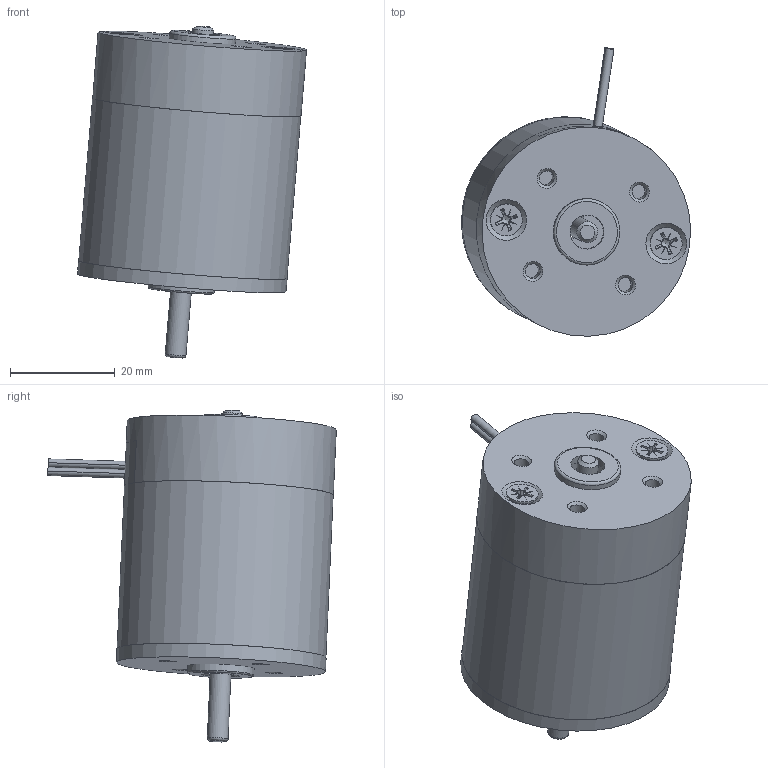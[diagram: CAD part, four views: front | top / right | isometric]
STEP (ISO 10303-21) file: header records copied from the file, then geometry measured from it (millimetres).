
FILE_DESCRIPTION(/* description */ (''),/* implementation_level */ '2;1');
FILE_NAME(/* name */ 'Z:\새 폴더\Compact Type RM4_3D\RM42ㅁBL.stp',/* time_stamp */ '2022-04-01T13:12:22+09:00',/* author */ ('umbro'),/* organization */ (''),/* preprocessor_version */ 'ST-DEVELOPER v17',/* originating_system */ 'Autodesk Inventor 2019',/* authorisation */ '');
FILE_SCHEMA (('AUTOMOTIVE_DESIGN { 1 0 10303 214 3 1 1 }'));
Length unit declared in the file: millimetre
Products named in the file (9): 조립품1; RM42ㅁBL; RM4TYPE_FRONT_HOUSING_; RM4TYPE_PIPE_HOUSING_pi40XL31.2; RM42TYPE_SHAFT; AS 1427 Z - 미터 M3.5 x 5; REAR_HOUSING__ASS'Y_LEAD; RM4TYPE_BRUSH_BRAKET_LEAD; RM4TYPE_REAR_HOUSING
Assembly tree (8 placements, depth 3):
  조립품1
    RM42ㅁBL
      RM4TYPE_FRONT_HOUSING_
      RM4TYPE_PIPE_HOUSING_pi40XL31.2
      RM42TYPE_SHAFT
      AS 1427 Z - 미터 M3.5 x 5  x2
  REAR_HOUSING__ASS'Y_LEAD
    RM4TYPE_BRUSH_BRAKET_LEAD
    RM4TYPE_REAR_HOUSING
Bounding box: 43.78 x 55.13 x 63.42 mm (x, y, z)
Volume: 18261.2 mm3; surface area: 17816.2 mm2
Topology: 10 solids, 10 shells, 154 faces, 384 edges, 252 vertices
Faces by surface type: plane 66, cone 44, cylinder 33, torus 11
Full cylindrical faces by diameter (mm): 2.7 x4, 2.8 x4, 3.132 x2, 3.5 x2, 3.7 x2, 3.969 x1, 4 x1, 6.1 x2, 6.5 x1, 6.65 x1, 12.7 x3, 36.5 x1, 40 x3
Entity records: 3876 total; most frequent: CARTESIAN_POINT 796, DIRECTION 624, ORIENTED_EDGE 536, EDGE_CURVE 268, AXIS2_PLACEMENT_3D 260, VERTEX_POINT 176, EDGE_LOOP 144, CIRCLE 121
